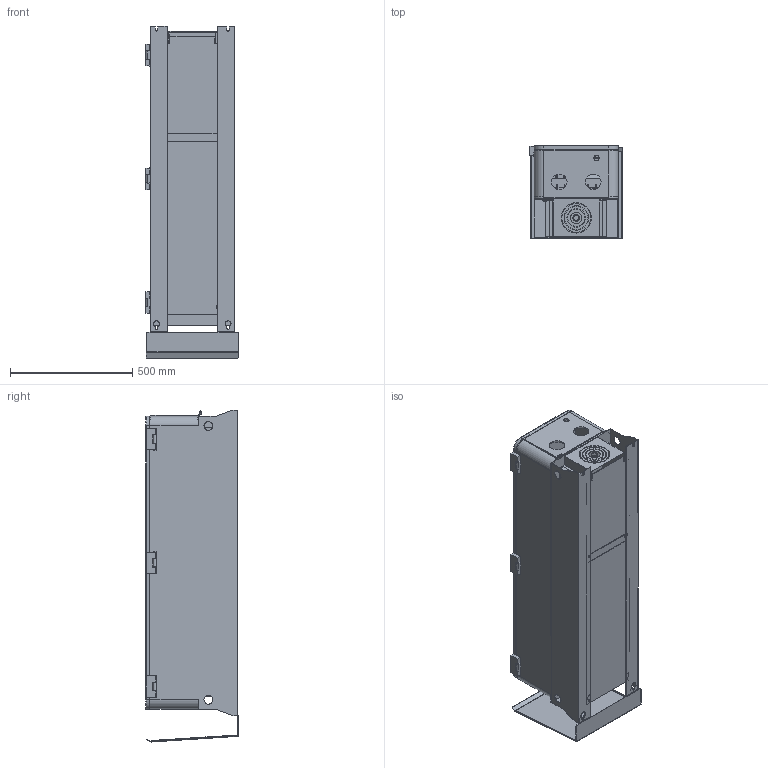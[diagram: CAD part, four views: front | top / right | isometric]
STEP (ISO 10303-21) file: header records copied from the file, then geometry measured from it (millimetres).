
FILE_DESCRIPTION((''),'2;1');
FILE_NAME('VFAS3_SA5E_ASM','2017-06-16T',('SESA57284'),('Schneider-Electric'),'PRO/ENGINEER BY PARAMETRIC TECHNOLOGY CORPORATION, 2015440','PRO/ENGINEER BY PARAMETRIC TECHNOLOGY CORPORATION, 2015440','');
FILE_SCHEMA(('CONFIG_CONTROL_DESIGN'));
Products named in the file (26): PRT0001_1; PRT0002_1; PRT0003_1; PRT0004_1; PRT0005_1; PRT0006_1; PRT0007_1; ASM0003_ASM_1_ASM; PRT0009_1; PRT0010_1; PRT0011_1; PRT0012_1; PRT0013_1; ASM0004_ASM_1_ASM; PRT0015_1; PRT0016_1; PRT0017_1; PRT0018_1; PRT0019_1; ASM0005_ASM_1_ASM; PRT0020_1; PRT0021_1; PRT0022_1; VFAS3_SA5E_ASM_1_ASM; IP55_TOP_CAP_SA5E; VFAS3_SA5E_ASM
Assembly tree (38 placements, depth 4):
  VFAS3_SA5E_ASM
    VFAS3_SA5E_ASM_1_ASM
      PRT0001_1  x4
      PRT0002_1
      ASM0003_ASM_1_ASM
        PRT0003_1
        PRT0004_1
        PRT0005_1
        PRT0006_1
        PRT0007_1
      ASM0004_ASM_1_ASM
        PRT0009_1
        PRT0010_1
        PRT0011_1
        PRT0012_1
        PRT0013_1
      ASM0005_ASM_1_ASM
        PRT0015_1
        PRT0016_1
        PRT0017_1
        PRT0018_1
        PRT0019_1
      PRT0020_1  x4
      PRT0021_1  x8
      PRT0022_1
    IP55_TOP_CAP_SA5E
Bounding box: 377.18 x 378 x 1357.97 mm (x, y, z)
Volume: 54548363.9 mm3; surface area: 6251432.5 mm2
Topology: 34 solids, 45 shells, 3140 faces, 8353 edges, 5506 vertices
Faces by surface type: plane 2168, cylinder 814, cone 79, sphere 46, torus 24, bspline 8, extrusion 1
Entity records: 86680 total; most frequent: CARTESIAN_POINT 17259, ORIENTED_EDGE 14448, DIRECTION 14255, EDGE_CURVE 7224, VECTOR 4877, LINE 4876, VERTEX_POINT 4796, AXIS2_PLACEMENT_3D 4689
